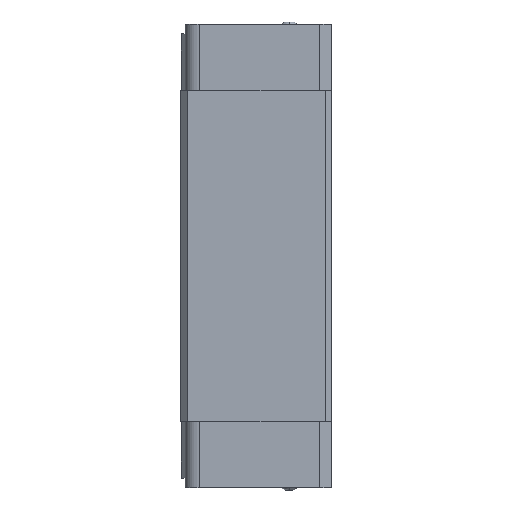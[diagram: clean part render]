
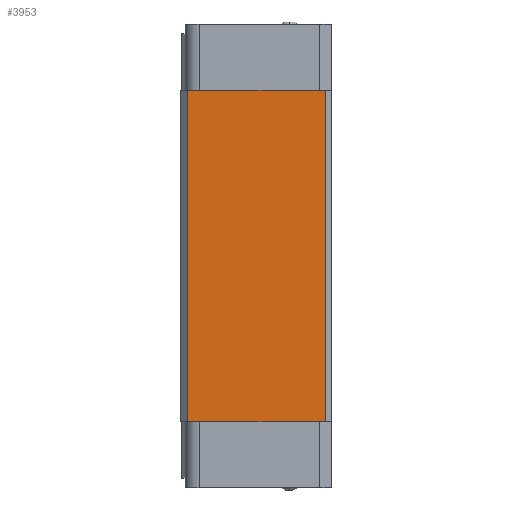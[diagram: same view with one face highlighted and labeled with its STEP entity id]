
A CAD part, left-side view. The second image highlights one B-rep face of the part: STEP entity #3953.
In plain terms, the highlighted planar face has unit normal (-1, 0, 0).
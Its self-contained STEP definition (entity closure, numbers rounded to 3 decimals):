
#50 = LINE ( 'NONE', #2613, #2826 ) ;
#341 = EDGE_CURVE ( 'NONE', #5239, #6819, #50, .T. ) ;
#408 = AXIS2_PLACEMENT_3D ( 'NONE', #1089, #4932, #1629 ) ;
#1009 = EDGE_LOOP ( 'NONE', ( #2580, #2801, #3519, #3490 ) ) ;
#1086 = CARTESIAN_POINT ( 'NONE',  ( -30., 18., 0. ) ) ;
#1089 = CARTESIAN_POINT ( 'NONE',  ( -30., 18., -84.1 ) ) ;
#1136 = LINE ( 'NONE', #5831, #5528 ) ;
#1619 = LINE ( 'NONE', #1086, #4381 ) ;
#1629 = DIRECTION ( 'NONE',  ( 0., -1., 0. ) ) ;
#1910 = CARTESIAN_POINT ( 'NONE',  ( -30., -13., -70.1 ) ) ;
#2178 = DIRECTION ( 'NONE',  ( 0., -1., 0. ) ) ;
#2580 = ORIENTED_EDGE ( 'NONE', *, *, #3733, .F. ) ;
#2613 = CARTESIAN_POINT ( 'NONE',  ( -30., 17.5, -70.1 ) ) ;
#2801 = ORIENTED_EDGE ( 'NONE', *, *, #5069, .T. ) ;
#2826 = VECTOR ( 'NONE', #6811, 1000. ) ;
#3186 = VERTEX_POINT ( 'NONE', #3481 ) ;
#3210 = CARTESIAN_POINT ( 'NONE',  ( -30., 17.5, 0. ) ) ;
#3481 = CARTESIAN_POINT ( 'NONE',  ( -30., -11.7, 0. ) ) ;
#3490 = ORIENTED_EDGE ( 'NONE', *, *, #341, .T. ) ;
#3519 = ORIENTED_EDGE ( 'NONE', *, *, #6926, .F. ) ;
#3713 = VECTOR ( 'NONE', #4188, 1000. ) ;
#3733 = EDGE_CURVE ( 'NONE', #4779, #6819, #6649, .T. ) ;
#3953 = ADVANCED_FACE ( 'NONE', ( #5787 ), #4382, .T. ) ;
#4188 = DIRECTION ( 'NONE',  ( 0., 1., 0. ) ) ;
#4381 = VECTOR ( 'NONE', #2178, 1000. ) ;
#4382 = PLANE ( 'NONE',  #408 ) ;
#4779 = VERTEX_POINT ( 'NONE', #7191 ) ;
#4932 = DIRECTION ( 'NONE',  ( -1., 0., 0. ) ) ;
#5069 = EDGE_CURVE ( 'NONE', #4779, #3186, #1136, .T. ) ;
#5239 = VERTEX_POINT ( 'NONE', #3210 ) ;
#5528 = VECTOR ( 'NONE', #6379, 1000. ) ;
#5787 = FACE_OUTER_BOUND ( 'NONE', #1009, .T. ) ;
#5831 = CARTESIAN_POINT ( 'NONE',  ( -30., -11.7, -84.1 ) ) ;
#6334 = CARTESIAN_POINT ( 'NONE',  ( -30., 17.5, -70.1 ) ) ;
#6379 = DIRECTION ( 'NONE',  ( 0., 0., 1. ) ) ;
#6649 = LINE ( 'NONE', #1910, #3713 ) ;
#6811 = DIRECTION ( 'NONE',  ( 0., 0., -1. ) ) ;
#6819 = VERTEX_POINT ( 'NONE', #6334 ) ;
#6926 = EDGE_CURVE ( 'NONE', #5239, #3186, #1619, .T. ) ;
#7191 = CARTESIAN_POINT ( 'NONE',  ( -30., -11.7, -70.1 ) ) ;
